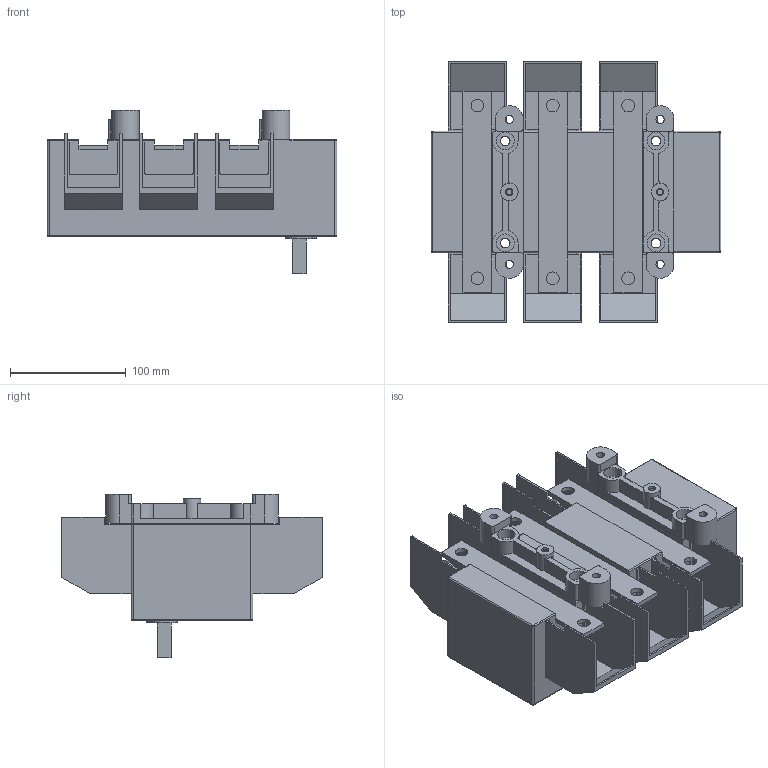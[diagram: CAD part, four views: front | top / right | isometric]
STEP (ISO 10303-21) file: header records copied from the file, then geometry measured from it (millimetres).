
FILE_DESCRIPTION(/* description */ (''),/* implementation_level */ '2;1');
FILE_NAME(/* name */ 'RA400 P3 z oslona zaciskow.stp',/* time_stamp */ '2021-08-18T13:52:16+02:00',/* author */ (''),/* organization */ (''),/* preprocessor_version */ 'ST-DEVELOPER v18.1',/* originating_system */ 'SIEMENS PLM Software NX 1965',/* authorisation */ '');
FILE_SCHEMA (('AUTOMOTIVE_DESIGN { 1 0 10303 214 3 1 1 1 }'));
Length unit declared in the file: millimetre
Products named in the file (1): RA400 P3 z oslona zaciskow_stp
Bounding box: 250 x 225 x 141 mm (x, y, z)
Volume: 2359551.6 mm3; surface area: 287226.2 mm2
Topology: 1 solids, 1 shells, 350 faces, 958 edges, 630 vertices
Faces by surface type: plane 246, cylinder 96, torus 5, bspline 3
Full cylindrical faces by diameter (mm): 4.8 x2, 6.2 x2, 7 x4, 8.2 x4, 11 x6, 14 x4, 15 x2, 15.5 x4
Entity records: 10939 total; most frequent: CARTESIAN_POINT 1962, ORIENTED_EDGE 1844, DIRECTION 1822, EDGE_CURVE 922, LINE 714, VECTOR 714, VERTEX_POINT 622, AXIS2_PLACEMENT_3D 554
